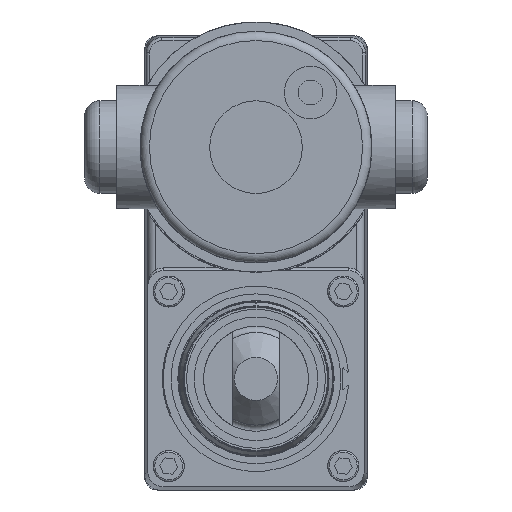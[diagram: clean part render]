
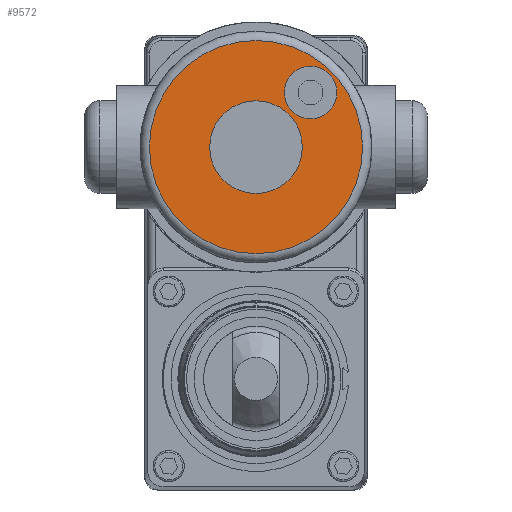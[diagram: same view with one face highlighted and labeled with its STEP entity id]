
A CAD part, front view. The second image highlights one B-rep face of the part: STEP entity #9572.
In plain terms, the highlighted planar face has unit normal (0, -1, 0) as drawn and (0, 0, -1) by its records, which use the part's own axes.
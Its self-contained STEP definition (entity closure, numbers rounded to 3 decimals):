
#3857=ORIENTED_EDGE('',*,*,#5533,.T.);
#3858=ORIENTED_EDGE('',*,*,#5534,.T.);
#3859=ORIENTED_EDGE('',*,*,#5535,.T.);
#5533=EDGE_CURVE('',#6562,#6562,#7122,.T.);
#5534=EDGE_CURVE('',#6563,#6563,#7123,.F.);
#5535=EDGE_CURVE('',#6564,#6564,#7124,.T.);
#6562=VERTEX_POINT('',#16768);
#6563=VERTEX_POINT('',#16770);
#6564=VERTEX_POINT('',#16772);
#7122=CIRCLE('',#10765,8.5);
#7123=CIRCLE('',#10766,34.5);
#7124=CIRCLE('',#10767,15.);
#7797=EDGE_LOOP('',(#3857));
#7798=EDGE_LOOP('',(#3858));
#7799=EDGE_LOOP('',(#3859));
#8618=FACE_BOUND('',#7797,.T.);
#8619=FACE_BOUND('',#7798,.T.);
#8620=FACE_BOUND('',#7799,.T.);
#9039=PLANE('',#10764);
#9572=ADVANCED_FACE('',(#8618,#8619,#8620),#9039,.F.);
#10764=AXIS2_PLACEMENT_3D('',#16766,#13135,#13136);
#10765=AXIS2_PLACEMENT_3D('',#16767,#13137,#13138);
#10766=AXIS2_PLACEMENT_3D('',#16769,#13139,#13140);
#10767=AXIS2_PLACEMENT_3D('',#16771,#13141,#13142);
#13135=DIRECTION('',(0.,0.,1.));
#13136=DIRECTION('',(0.,-1.,0.));
#13137=DIRECTION('',(0.,0.,1.));
#13138=DIRECTION('',(-1.,0.,0.));
#13139=DIRECTION('',(0.,0.,1.));
#13140=DIRECTION('',(0.,-1.,0.));
#13141=DIRECTION('',(0.,0.,1.));
#13142=DIRECTION('',(-1.,0.,0.));
#16766=CARTESIAN_POINT('',(0.,0.,-185.));
#16767=CARTESIAN_POINT('',(17.678,17.678,-185.));
#16768=CARTESIAN_POINT('',(9.178,17.678,-185.));
#16769=CARTESIAN_POINT('',(0.,0.,-185.));
#16770=CARTESIAN_POINT('',(0.,-34.5,-185.));
#16771=CARTESIAN_POINT('',(0.,0.,-185.));
#16772=CARTESIAN_POINT('',(-15.,0.,-185.));
